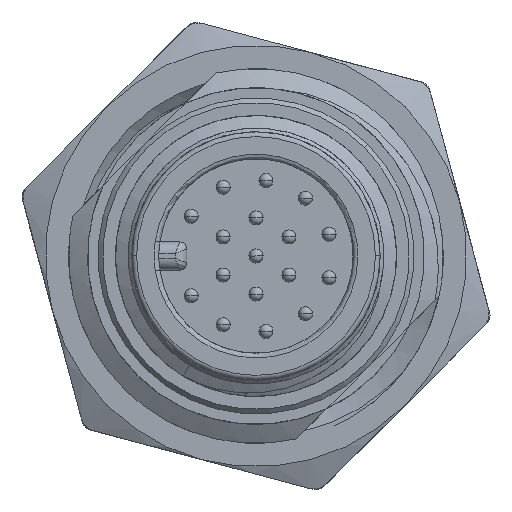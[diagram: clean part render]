
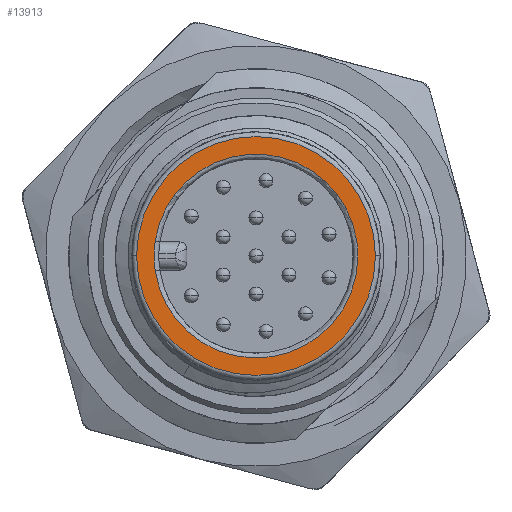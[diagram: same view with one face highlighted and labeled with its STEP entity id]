
A CAD part, left-side view. The second image highlights one B-rep face of the part: STEP entity #13913.
In plain terms, the highlighted planar face has unit normal (-1, 0, 0).
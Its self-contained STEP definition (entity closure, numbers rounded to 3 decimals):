
#42=CARTESIAN_POINT('',(20.246,0.,0.));
#43=DIRECTION('',(1.,0.,0.));
#44=DIRECTION('',(0.,-1.,-0.002));
#45=AXIS2_PLACEMENT_3D('',#42,#43,#44);
#47=CARTESIAN_POINT('',(20.246,0.,0.));
#48=DIRECTION('',(1.,0.,0.));
#49=DIRECTION('',(0.,1.,0.002));
#50=AXIS2_PLACEMENT_3D('',#47,#48,#49);
#52=CARTESIAN_POINT('',(20.246,0.,0.));
#53=DIRECTION('',(-1.,0.,0.));
#54=DIRECTION('',(0.,0.989,0.145));
#55=AXIS2_PLACEMENT_3D('',#52,#53,#54);
#57=CARTESIAN_POINT('',(20.246,0.,0.));
#58=DIRECTION('',(-1.,0.,0.));
#59=DIRECTION('',(0.,0.989,-0.145));
#60=AXIS2_PLACEMENT_3D('',#57,#58,#59);
#62=CARTESIAN_POINT('',(20.246,0.,0.));
#63=DIRECTION('',(-1.,0.,0.));
#64=DIRECTION('',(0.,-1.,-0.022));
#65=AXIS2_PLACEMENT_3D('',#62,#63,#64);
#67=CARTESIAN_POINT('',(20.246,0.,0.));
#68=DIRECTION('',(-1.,0.,0.));
#69=DIRECTION('',(0.,-0.989,0.145));
#70=AXIS2_PLACEMENT_3D('',#67,#68,#69);
#72=CARTESIAN_POINT('',(20.246,0.,0.));
#73=DIRECTION('',(-1.,0.,0.));
#74=DIRECTION('',(0.,-1.,-0.002));
#75=AXIS2_PLACEMENT_3D('',#72,#73,#74);
#97=CARTESIAN_POINT('',(20.246,0.,0.));
#98=DIRECTION('',(-1.,0.,0.));
#99=DIRECTION('',(0.,1.,0.002));
#100=AXIS2_PLACEMENT_3D('',#97,#98,#99);
#12176=CARTESIAN_POINT('',(20.246,-5.1,
-0.009));
#12177=CARTESIAN_POINT('',(20.246,-5.1,
0.));
#12178=VERTEX_POINT('',#12176);
#12179=VERTEX_POINT('',#12177);
#12180=CARTESIAN_POINT('',(20.246,5.1,
0.));
#12181=VERTEX_POINT('',#12180);
#12182=CARTESIAN_POINT('',(20.246,5.1,
0.009));
#12183=VERTEX_POINT('',#12182);
#12184=CARTESIAN_POINT('',(20.246,4.304,
0.629));
#12185=CARTESIAN_POINT('',(20.246,4.304,
-0.629));
#12186=VERTEX_POINT('',#12184);
#12187=VERTEX_POINT('',#12185);
#12188=CARTESIAN_POINT('',(20.246,-4.349,
-0.095));
#12189=VERTEX_POINT('',#12188);
#12190=CARTESIAN_POINT('',(20.246,-4.304,
0.629));
#12191=VERTEX_POINT('',#12190);
#13888=CARTESIAN_POINT('',(20.246,0.,0.));
#13889=DIRECTION('',(1.,0.,0.));
#13890=DIRECTION('',(0.,-1.,0.));
#13891=AXIS2_PLACEMENT_3D('',#13888,#13889,#13890);
#13892=PLANE('',#13891);
#13894=ORIENTED_EDGE('',*,*,#13893,.F.);
#13896=ORIENTED_EDGE('',*,*,#13895,.T.);
#13898=ORIENTED_EDGE('',*,*,#13897,.F.);
#13900=ORIENTED_EDGE('',*,*,#13899,.T.);
#13901=EDGE_LOOP('',(#13894,#13896,#13898,#13900));
#13902=FACE_OUTER_BOUND('',#13901,.F.);
#13904=ORIENTED_EDGE('',*,*,#13903,.T.);
#13906=ORIENTED_EDGE('',*,*,#13905,.T.);
#13908=ORIENTED_EDGE('',*,*,#13907,.T.);
#13910=ORIENTED_EDGE('',*,*,#13909,.T.);
#13911=EDGE_LOOP('',(#13904,#13906,#13908,#13910));
#13912=FACE_BOUND('',#13911,.F.);
#13913=ADVANCED_FACE('',(#13902,#13912),#13892,.F.);
#46=CIRCLE('',#45,5.1);
#51=CIRCLE('',#50,5.1);
#56=CIRCLE('',#55,4.35);
#61=CIRCLE('',#60,4.35);
#66=CIRCLE('',#65,4.35);
#71=CIRCLE('',#70,4.35);
#76=CIRCLE('',#75,5.1);
#101=CIRCLE('',#100,5.1);
#13893=EDGE_CURVE('',#12178,#12179,#76,.T.);
#13895=EDGE_CURVE('',#12178,#12181,#46,.T.);
#13897=EDGE_CURVE('',#12183,#12181,#101,.T.);
#13899=EDGE_CURVE('',#12183,#12179,#51,.T.);
#13903=EDGE_CURVE('',#12186,#12187,#56,.T.);
#13905=EDGE_CURVE('',#12187,#12189,#61,.T.);
#13907=EDGE_CURVE('',#12189,#12191,#66,.T.);
#13909=EDGE_CURVE('',#12191,#12186,#71,.T.);
